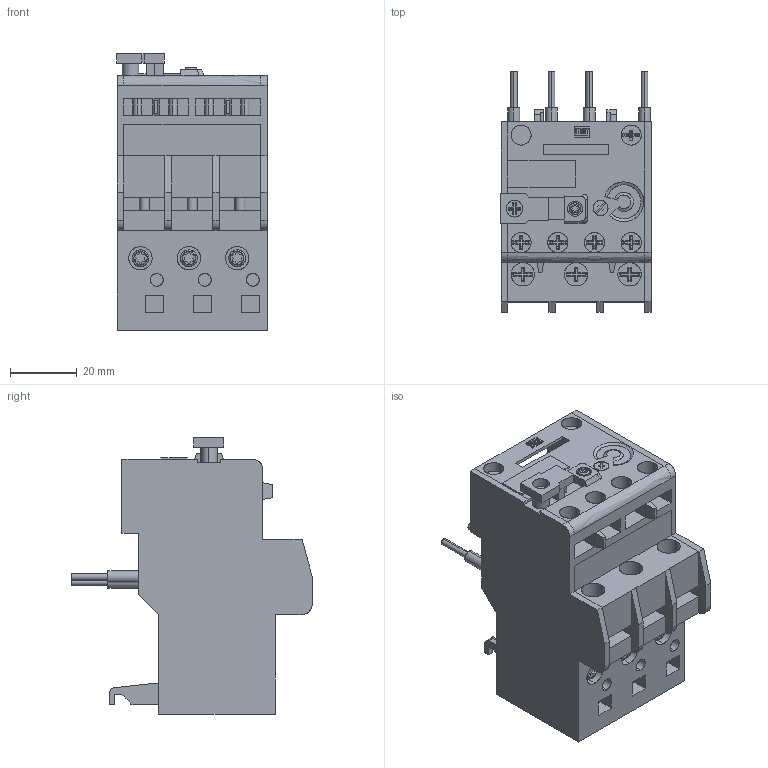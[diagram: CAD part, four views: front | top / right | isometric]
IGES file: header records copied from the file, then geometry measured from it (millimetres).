
Start section: SolidWorks IGES file using analytic representation for surfaces
Global section: file name: Q:\GROUPS\BR_SC_JGS_WA_TECNICO\ENG\Usuarios\Rodrigob\conversão\Reles de Sobrecarga\RW17-2D3\RW17-2D3.IGS; native system: SolidWorks 2009; preprocessor: SolidWorks 2009; author: rodrigob; date: 100128.085618; units: millimetre
Bounding box: 45.1 x 72 x 82.9 mm (x, y, z)
Surface area: 26324.6 mm2 (no closed solid volume)
Topology: 0 solids, 0 shells, 595 faces, 5890 edges, 5882 vertices
Faces by surface type: bspline 489, revolution 106
